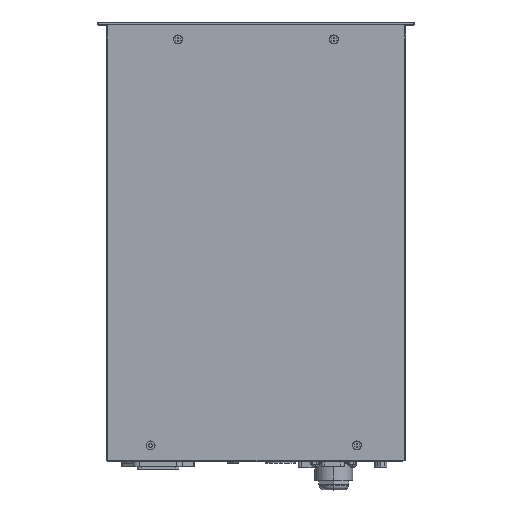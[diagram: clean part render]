
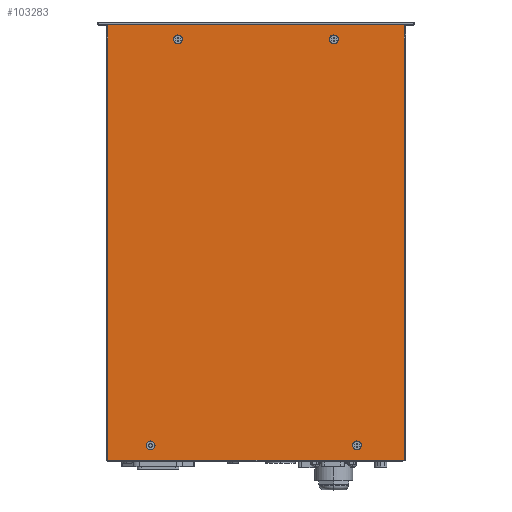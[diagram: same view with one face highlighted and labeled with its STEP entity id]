
A CAD part, top view. The second image highlights one B-rep face of the part: STEP entity #103283.
In plain terms, the highlighted planar face has unit normal (0, 0, 1).
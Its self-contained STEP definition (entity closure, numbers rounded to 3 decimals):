
#757 = CARTESIAN_POINT ( 'NONE',  ( 110.261, 572.326, 523.238 ) ) ;
#790 = PLANE ( 'NONE',  #99071 ) ;
#2671 = DIRECTION ( 'NONE',  ( 0., 0., -1. ) ) ;
#3179 = VERTEX_POINT ( 'NONE', #109846 ) ;
#4044 = DIRECTION ( 'NONE',  ( 1., 0., 0. ) ) ;
#5387 = DIRECTION ( 'NONE',  ( 1., 0., 0. ) ) ;
#7593 = CIRCLE ( 'NONE', #175199, 3. ) ;
#11757 = VERTEX_POINT ( 'NONE', #88923 ) ;
#16743 = FACE_OUTER_BOUND ( 'NONE', #55911, .T. ) ;
#17020 = DIRECTION ( 'NONE',  ( 0., -1., 0. ) ) ;
#17618 = ORIENTED_EDGE ( 'NONE', *, *, #97224, .T. ) ;
#23935 = VERTEX_POINT ( 'NONE', #96925 ) ;
#26054 = EDGE_LOOP ( 'NONE', ( #98883, #136716 ) ) ;
#26462 = ORIENTED_EDGE ( 'NONE', *, *, #174200, .T. ) ;
#27003 = CARTESIAN_POINT ( 'NONE',  ( 266.222, 288.832, 523.238 ) ) ;
#28470 = CARTESIAN_POINT ( 'NONE',  ( 124.111, 518.054, 523.238 ) ) ;
#29918 = CIRCLE ( 'NONE', #106981, 3. ) ;
#35583 = EDGE_CURVE ( 'NONE', #58328, #102488, #29918, .T. ) ;
#37363 = VECTOR ( 'NONE', #17020, 1000. ) ;
#39638 = DIRECTION ( 'NONE',  ( 1., 0., 0. ) ) ;
#40467 = ORIENTED_EDGE ( 'NONE', *, *, #55057, .T. ) ;
#42333 = DIRECTION ( 'NONE',  ( 1., 0., 0. ) ) ;
#44659 = CARTESIAN_POINT ( 'NONE',  ( 65.817, 518.054, 523.238 ) ) ;
#44702 = CARTESIAN_POINT ( 'NONE',  ( 113.261, 572.326, 523.238 ) ) ;
#46110 = CARTESIAN_POINT ( 'NONE',  ( 236.817, 298.831, 523.238 ) ) ;
#49780 = DIRECTION ( 'NONE',  ( 0., 0., -1. ) ) ;
#52047 = CARTESIAN_POINT ( 'NONE',  ( 97.817, 298.831, 523.238 ) ) ;
#55057 = EDGE_CURVE ( 'NONE', #11757, #92595, #119097, .T. ) ;
#55295 = DIRECTION ( 'NONE',  ( 0., 0., -1. ) ) ;
#55911 = EDGE_LOOP ( 'NONE', ( #118631, #111158, #138348, #62818 ) ) ;
#58328 = VERTEX_POINT ( 'NONE', #52047 ) ;
#58509 = DIRECTION ( 'NONE',  ( 1., 0., 0. ) ) ;
#58846 = DIRECTION ( 'NONE',  ( 0., 0., -1. ) ) ;
#59977 = VECTOR ( 'NONE', #62473, 1000. ) ;
#60205 = DIRECTION ( 'NONE',  ( 0., 0., -1. ) ) ;
#60801 = CIRCLE ( 'NONE', #97804, 3. ) ;
#62473 = DIRECTION ( 'NONE',  ( 0., 1., 0. ) ) ;
#62818 = ORIENTED_EDGE ( 'NONE', *, *, #138897, .T. ) ;
#70119 = EDGE_CURVE ( 'NONE', #102488, #58328, #175318, .T. ) ;
#73548 = VERTEX_POINT ( 'NONE', #176434 ) ;
#73969 = CARTESIAN_POINT ( 'NONE',  ( 221.261, 572.326, 523.238 ) ) ;
#76337 = VECTOR ( 'NONE', #156781, 1000. ) ;
#77658 = EDGE_CURVE ( 'NONE', #168635, #73548, #112885, .T. ) ;
#77735 = VERTEX_POINT ( 'NONE', #104257 ) ;
#85191 = CARTESIAN_POINT ( 'NONE',  ( 113.261, 572.326, 523.238 ) ) ;
#86500 = DIRECTION ( 'NONE',  ( 0., 0., -1. ) ) ;
#87294 = VERTEX_POINT ( 'NONE', #73969 ) ;
#87867 = DIRECTION ( 'NONE',  ( 0., 0., -1. ) ) ;
#88923 = CARTESIAN_POINT ( 'NONE',  ( 116.261, 572.326, 523.238 ) ) ;
#89899 = FACE_BOUND ( 'NONE', #147194, .T. ) ;
#92595 = VERTEX_POINT ( 'NONE', #757 ) ;
#94768 = EDGE_LOOP ( 'NONE', ( #40467, #26462 ) ) ;
#95966 = LINE ( 'NONE', #27003, #100311 ) ;
#96524 = LINE ( 'NONE', #172614, #59977 ) ;
#96925 = CARTESIAN_POINT ( 'NONE',  ( 265.822, 288.832, 523.238 ) ) ;
#97224 = EDGE_CURVE ( 'NONE', #87294, #3179, #145804, .T. ) ;
#97804 = AXIS2_PLACEMENT_3D ( 'NONE', #137778, #55295, #151583 ) ;
#98883 = ORIENTED_EDGE ( 'NONE', *, *, #35583, .T. ) ;
#98903 = DIRECTION ( 'NONE',  ( 1., 0., 0. ) ) ;
#99071 = AXIS2_PLACEMENT_3D ( 'NONE', #28470, #124710, #42333 ) ;
#99744 = EDGE_CURVE ( 'NONE', #168635, #136161, #110505, .T. ) ;
#100311 = VECTOR ( 'NONE', #39638, 1000. ) ;
#101343 = CARTESIAN_POINT ( 'NONE',  ( 66.81, 582.031, 523.238 ) ) ;
#102244 = CARTESIAN_POINT ( 'NONE',  ( 91.817, 298.831, 523.238 ) ) ;
#102488 = VERTEX_POINT ( 'NONE', #102244 ) ;
#103283 = ADVANCED_FACE ( 'NONE', ( #135112, #126471, #163076, #89899, #16743 ), #790, .T. ) ;
#104257 = CARTESIAN_POINT ( 'NONE',  ( 230.817, 298.831, 523.238 ) ) ;
#106981 = AXIS2_PLACEMENT_3D ( 'NONE', #132285, #49780, #146089 ) ;
#109846 = CARTESIAN_POINT ( 'NONE',  ( 215.261, 572.326, 523.238 ) ) ;
#110505 = LINE ( 'NONE', #44659, #37363 ) ;
#111158 = ORIENTED_EDGE ( 'NONE', *, *, #99744, .T. ) ;
#112257 = AXIS2_PLACEMENT_3D ( 'NONE', #44702, #140972, #58509 ) ;
#112885 = LINE ( 'NONE', #101343, #76337 ) ;
#115298 = CARTESIAN_POINT ( 'NONE',  ( 65.817, 288.832, 523.238 ) ) ;
#118631 = ORIENTED_EDGE ( 'NONE', *, *, #77658, .F. ) ;
#119097 = CIRCLE ( 'NONE', #134872, 3. ) ;
#124162 = EDGE_LOOP ( 'NONE', ( #17618, #124837 ) ) ;
#124710 = DIRECTION ( 'NONE',  ( 0., 0., 1. ) ) ;
#124837 = ORIENTED_EDGE ( 'NONE', *, *, #163158, .T. ) ;
#125445 = CARTESIAN_POINT ( 'NONE',  ( 65.817, 582.031, 523.238 ) ) ;
#126471 = FACE_BOUND ( 'NONE', #124162, .T. ) ;
#128508 = EDGE_CURVE ( 'NONE', #141261, #77735, #7593, .T. ) ;
#132285 = CARTESIAN_POINT ( 'NONE',  ( 94.817, 298.831, 523.238 ) ) ;
#133677 = ORIENTED_EDGE ( 'NONE', *, *, #128508, .T. ) ;
#134872 = AXIS2_PLACEMENT_3D ( 'NONE', #85191, #2671, #98903 ) ;
#135112 = FACE_BOUND ( 'NONE', #94768, .T. ) ;
#135190 = AXIS2_PLACEMENT_3D ( 'NONE', #141319, #58846, #155135 ) ;
#136161 = VERTEX_POINT ( 'NONE', #115298 ) ;
#136716 = ORIENTED_EDGE ( 'NONE', *, *, #70119, .T. ) ;
#137778 = CARTESIAN_POINT ( 'NONE',  ( 233.817, 298.831, 523.238 ) ) ;
#138348 = ORIENTED_EDGE ( 'NONE', *, *, #176147, .T. ) ;
#138897 = EDGE_CURVE ( 'NONE', #23935, #73548, #96524, .T. ) ;
#140972 = DIRECTION ( 'NONE',  ( 0., 0., -1. ) ) ;
#141261 = VERTEX_POINT ( 'NONE', #46110 ) ;
#141319 = CARTESIAN_POINT ( 'NONE',  ( 218.261, 572.326, 523.238 ) ) ;
#142667 = CARTESIAN_POINT ( 'NONE',  ( 233.817, 298.831, 523.238 ) ) ;
#144901 = AXIS2_PLACEMENT_3D ( 'NONE', #170239, #87867, #5387 ) ;
#145804 = CIRCLE ( 'NONE', #135190, 3. ) ;
#146089 = DIRECTION ( 'NONE',  ( 1., 0., 0. ) ) ;
#147194 = EDGE_LOOP ( 'NONE', ( #133677, #170767 ) ) ;
#148066 = CIRCLE ( 'NONE', #112257, 3. ) ;
#151583 = DIRECTION ( 'NONE',  ( 1., 0., 0. ) ) ;
#155135 = DIRECTION ( 'NONE',  ( 1., 0., 0. ) ) ;
#156527 = DIRECTION ( 'NONE',  ( 1., 0., 0. ) ) ;
#156781 = DIRECTION ( 'NONE',  ( 1., 0., 0. ) ) ;
#163076 = FACE_BOUND ( 'NONE', #26054, .T. ) ;
#163158 = EDGE_CURVE ( 'NONE', #3179, #87294, #167791, .T. ) ;
#167791 = CIRCLE ( 'NONE', #176141, 3. ) ;
#168635 = VERTEX_POINT ( 'NONE', #125445 ) ;
#168911 = CARTESIAN_POINT ( 'NONE',  ( 218.261, 572.326, 523.238 ) ) ;
#170239 = CARTESIAN_POINT ( 'NONE',  ( 94.817, 298.831, 523.238 ) ) ;
#170767 = ORIENTED_EDGE ( 'NONE', *, *, #178418, .T. ) ;
#172614 = CARTESIAN_POINT ( 'NONE',  ( 265.822, 518.054, 523.238 ) ) ;
#174200 = EDGE_CURVE ( 'NONE', #92595, #11757, #148066, .T. ) ;
#175199 = AXIS2_PLACEMENT_3D ( 'NONE', #142667, #60205, #156527 ) ;
#175318 = CIRCLE ( 'NONE', #144901, 3. ) ;
#176141 = AXIS2_PLACEMENT_3D ( 'NONE', #168911, #86500, #4044 ) ;
#176147 = EDGE_CURVE ( 'NONE', #136161, #23935, #95966, .T. ) ;
#176434 = CARTESIAN_POINT ( 'NONE',  ( 265.822, 582.031, 523.238 ) ) ;
#178418 = EDGE_CURVE ( 'NONE', #77735, #141261, #60801, .T. ) ;
